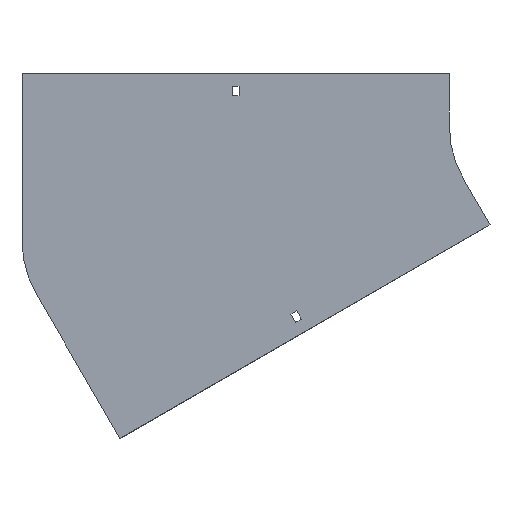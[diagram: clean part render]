
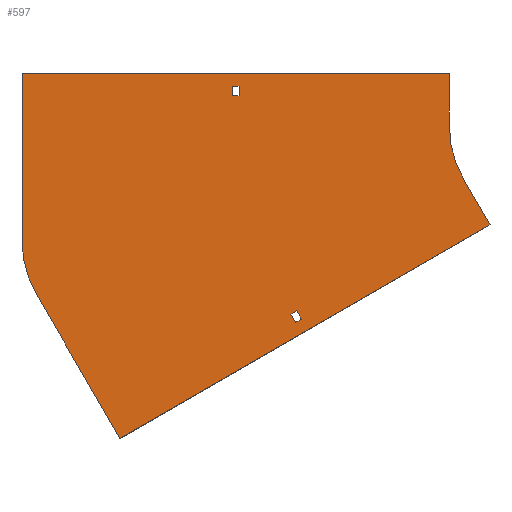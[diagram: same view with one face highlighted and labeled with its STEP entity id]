
A CAD part, front view. The second image highlights one B-rep face of the part: STEP entity #597.
In plain terms, the highlighted planar face has unit normal (0, -1, 0).
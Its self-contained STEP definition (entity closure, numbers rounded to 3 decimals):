
#6 = ORIENTED_EDGE ( 'NONE', *, *, #985, .T. ) ;
#12 = VERTEX_POINT ( 'NONE', #540 ) ;
#22 = CARTESIAN_POINT ( 'NONE',  ( -61.603, 0., -93.301 ) ) ;
#27 = AXIS2_PLACEMENT_3D ( 'NONE', #1141, #809, #1247 ) ;
#58 = FACE_BOUND ( 'NONE', #730, .T. ) ;
#99 = CARTESIAN_POINT ( 'NONE',  ( -504., 0., -108.251 ) ) ;
#107 = LINE ( 'NONE', #844, #542 ) ;
#111 = EDGE_CURVE ( 'NONE', #12, #1158, #1310, .T. ) ;
#122 = CARTESIAN_POINT ( 'NONE',  ( -504., 0., 50. ) ) ;
#158 = CARTESIAN_POINT ( 'NONE',  ( -404., 0., -108.251 ) ) ;
#160 = VECTOR ( 'NONE', #315, 1000. ) ;
#161 = VERTEX_POINT ( 'NONE', #753 ) ;
#193 = ORIENTED_EDGE ( 'NONE', *, *, #1044, .T. ) ;
#197 = DIRECTION ( 'NONE',  ( -0.5, 0., 0.866 ) ) ;
#209 = DIRECTION ( 'NONE',  ( -0.5, 0., 0.866 ) ) ;
#214 = EDGE_CURVE ( 'NONE', #1066, #12, #1196, .T. ) ;
#218 = VECTOR ( 'NONE', #1301, 1000. ) ;
#224 = LINE ( 'NONE', #1083, #218 ) ;
#231 = CARTESIAN_POINT ( 'NONE',  ( -504., 0., -108.251 ) ) ;
#293 = LINE ( 'NONE', #913, #1315 ) ;
#296 = ORIENTED_EDGE ( 'NONE', *, *, #970, .F. ) ;
#297 = EDGE_CURVE ( 'NONE', #847, #1184, #1370, .T. ) ;
#308 = EDGE_CURVE ( 'NONE', #1228, #805, #1163, .T. ) ;
#314 = LINE ( 'NONE', #430, #1227 ) ;
#315 = DIRECTION ( 'NONE',  ( 0.5, 0., -0.866 ) ) ;
#370 = ORIENTED_EDGE ( 'NONE', *, *, #1391, .T. ) ;
#381 = VERTEX_POINT ( 'NONE', #835 ) ;
#386 = ORIENTED_EDGE ( 'NONE', *, *, #308, .T. ) ;
#387 = PLANE ( 'NONE',  #27 ) ;
#413 = DIRECTION ( 'NONE',  ( -0.866, 0., -0.5 ) ) ;
#419 = CARTESIAN_POINT ( 'NONE',  ( -305.25, 0., 29. ) ) ;
#425 = DIRECTION ( 'NONE',  ( 1., 0., 0. ) ) ;
#428 = CARTESIAN_POINT ( 'NONE',  ( -239.725, 0., -182.284 ) ) ;
#430 = CARTESIAN_POINT ( 'NONE',  ( -298.75, 0., 29. ) ) ;
#441 = DIRECTION ( 'NONE',  ( 0., 0., -1. ) ) ;
#443 = ORIENTED_EDGE ( 'NONE', *, *, #825, .F. ) ;
#446 = DIRECTION ( 'NONE',  ( -0.866, 0., -0.5 ) ) ;
#448 = DIRECTION ( 'NONE',  ( 0., 0., -1. ) ) ;
#452 = CARTESIAN_POINT ( 'NONE',  ( -100., 0., 50. ) ) ;
#476 = VECTOR ( 'NONE', #508, 1000. ) ;
#479 = VECTOR ( 'NONE', #1382, 1000. ) ;
#498 = VERTEX_POINT ( 'NONE', #534 ) ;
#499 = CIRCLE ( 'NONE', #795, 100. ) ;
#508 = DIRECTION ( 'NONE',  ( -1., 0., 0. ) ) ;
#532 = ORIENTED_EDGE ( 'NONE', *, *, #928, .F. ) ;
#534 = CARTESIAN_POINT ( 'NONE',  ( -490.603, 0., -158.251 ) ) ;
#540 = CARTESIAN_POINT ( 'NONE',  ( -504., 0., 50. ) ) ;
#542 = VECTOR ( 'NONE', #543, 1000. ) ;
#543 = DIRECTION ( 'NONE',  ( 0., 0., 1. ) ) ;
#577 = CARTESIAN_POINT ( 'NONE',  ( -305.25, 0., 38. ) ) ;
#590 = CARTESIAN_POINT ( 'NONE',  ( -298.75, 0., 38. ) ) ;
#592 = ORIENTED_EDGE ( 'NONE', *, *, #818, .F. ) ;
#597 = ADVANCED_FACE ( 'NONE', ( #58, #909, #1355 ), #387, .T. ) ;
#598 = VERTEX_POINT ( 'NONE', #1028 ) ;
#607 = VERTEX_POINT ( 'NONE', #428 ) ;
#625 = CARTESIAN_POINT ( 'NONE',  ( -86.603, 0., -50. ) ) ;
#639 = EDGE_CURVE ( 'NONE', #1147, #498, #1289, .T. ) ;
#646 = DIRECTION ( 'NONE',  ( 1., 0., 0. ) ) ;
#649 = CARTESIAN_POINT ( 'NONE',  ( -244.225, 0., -174.49 ) ) ;
#672 = EDGE_LOOP ( 'NONE', ( #443, #296, #712, #1006 ) ) ;
#698 = AXIS2_PLACEMENT_3D ( 'NONE', #158, #1092, #1116 ) ;
#712 = ORIENTED_EDGE ( 'NONE', *, *, #1234, .F. ) ;
#720 = DIRECTION ( 'NONE',  ( 0., 0., -1. ) ) ;
#730 = EDGE_LOOP ( 'NONE', ( #6, #386, #193, #370 ) ) ;
#753 = CARTESIAN_POINT ( 'NONE',  ( -249.854, 0., -177.74 ) ) ;
#758 = DIRECTION ( 'NONE',  ( 0., -1., 0. ) ) ;
#765 = EDGE_CURVE ( 'NONE', #381, #847, #499, .T. ) ;
#784 = CARTESIAN_POINT ( 'NONE',  ( -249.854, 0., -177.74 ) ) ;
#793 = VECTOR ( 'NONE', #197, 1000. ) ;
#795 = AXIS2_PLACEMENT_3D ( 'NONE', #1087, #758, #448 ) ;
#805 = VERTEX_POINT ( 'NONE', #590 ) ;
#806 = CARTESIAN_POINT ( 'NONE',  ( -86.603, 0., -50. ) ) ;
#809 = DIRECTION ( 'NONE',  ( 0., -1., 0. ) ) ;
#813 = VECTOR ( 'NONE', #646, 1000. ) ;
#818 = EDGE_CURVE ( 'NONE', #1158, #381, #293, .T. ) ;
#825 = EDGE_CURVE ( 'NONE', #598, #607, #827, .T. ) ;
#827 = LINE ( 'NONE', #1359, #479 ) ;
#835 = CARTESIAN_POINT ( 'NONE',  ( -100., 0., 0. ) ) ;
#841 = EDGE_CURVE ( 'NONE', #607, #1143, #1353, .T. ) ;
#844 = CARTESIAN_POINT ( 'NONE',  ( -305.25, 0., 29. ) ) ;
#847 = VERTEX_POINT ( 'NONE', #806 ) ;
#855 = VECTOR ( 'NONE', #413, 1000. ) ;
#909 = FACE_OUTER_BOUND ( 'NONE', #1102, .T. ) ;
#912 = LINE ( 'NONE', #1144, #476 ) ;
#913 = CARTESIAN_POINT ( 'NONE',  ( -100., 0., 50. ) ) ;
#928 = EDGE_CURVE ( 'NONE', #1184, #1147, #939, .T. ) ;
#933 = CARTESIAN_POINT ( 'NONE',  ( -305.25, 0., 38. ) ) ;
#939 = LINE ( 'NONE', #1128, #855 ) ;
#949 = CIRCLE ( 'NONE', #698, 100. ) ;
#956 = ORIENTED_EDGE ( 'NONE', *, *, #765, .F. ) ;
#968 = DIRECTION ( 'NONE',  ( 0., 0., 1. ) ) ;
#970 = EDGE_CURVE ( 'NONE', #161, #598, #224, .T. ) ;
#978 = CARTESIAN_POINT ( 'NONE',  ( -411.477, 0., -295.301 ) ) ;
#979 = LINE ( 'NONE', #784, #1295 ) ;
#985 = EDGE_CURVE ( 'NONE', #1361, #1228, #107, .T. ) ;
#1006 = ORIENTED_EDGE ( 'NONE', *, *, #841, .F. ) ;
#1017 = ORIENTED_EDGE ( 'NONE', *, *, #111, .F. ) ;
#1028 = CARTESIAN_POINT ( 'NONE',  ( -245.354, 0., -185.534 ) ) ;
#1044 = EDGE_CURVE ( 'NONE', #805, #1242, #314, .T. ) ;
#1045 = VECTOR ( 'NONE', #209, 1000. ) ;
#1066 = VERTEX_POINT ( 'NONE', #99 ) ;
#1083 = CARTESIAN_POINT ( 'NONE',  ( -249.854, 0., -177.74 ) ) ;
#1087 = CARTESIAN_POINT ( 'NONE',  ( 0., 0., 0. ) ) ;
#1092 = DIRECTION ( 'NONE',  ( 0., 1., 0. ) ) ;
#1102 = EDGE_LOOP ( 'NONE', ( #1017, #1117, #1205, #1308, #532, #1235, #956, #592 ) ) ;
#1116 = DIRECTION ( 'NONE',  ( 0., 0., 1. ) ) ;
#1117 = ORIENTED_EDGE ( 'NONE', *, *, #214, .F. ) ;
#1121 = VECTOR ( 'NONE', #425, 1000. ) ;
#1128 = CARTESIAN_POINT ( 'NONE',  ( -61.603, 0., -93.301 ) ) ;
#1141 = CARTESIAN_POINT ( 'NONE',  ( 0., 0., 0. ) ) ;
#1143 = VERTEX_POINT ( 'NONE', #649 ) ;
#1144 = CARTESIAN_POINT ( 'NONE',  ( -305.25, 0., 29. ) ) ;
#1147 = VERTEX_POINT ( 'NONE', #978 ) ;
#1154 = CARTESIAN_POINT ( 'NONE',  ( -244.225, 0., -174.49 ) ) ;
#1158 = VERTEX_POINT ( 'NONE', #452 ) ;
#1163 = LINE ( 'NONE', #933, #1121 ) ;
#1173 = CARTESIAN_POINT ( 'NONE',  ( -411.477, 0., -295.301 ) ) ;
#1184 = VERTEX_POINT ( 'NONE', #22 ) ;
#1190 = VECTOR ( 'NONE', #968, 1000. ) ;
#1196 = LINE ( 'NONE', #231, #1190 ) ;
#1200 = EDGE_CURVE ( 'NONE', #498, #1066, #949, .T. ) ;
#1205 = ORIENTED_EDGE ( 'NONE', *, *, #1200, .F. ) ;
#1227 = VECTOR ( 'NONE', #441, 1000. ) ;
#1228 = VERTEX_POINT ( 'NONE', #577 ) ;
#1234 = EDGE_CURVE ( 'NONE', #1143, #161, #979, .T. ) ;
#1235 = ORIENTED_EDGE ( 'NONE', *, *, #297, .F. ) ;
#1242 = VERTEX_POINT ( 'NONE', #1348 ) ;
#1247 = DIRECTION ( 'NONE',  ( 0., 0., -1. ) ) ;
#1289 = LINE ( 'NONE', #1173, #1045 ) ;
#1295 = VECTOR ( 'NONE', #446, 1000. ) ;
#1301 = DIRECTION ( 'NONE',  ( 0.5, 0., -0.866 ) ) ;
#1308 = ORIENTED_EDGE ( 'NONE', *, *, #639, .F. ) ;
#1310 = LINE ( 'NONE', #122, #813 ) ;
#1315 = VECTOR ( 'NONE', #720, 1000. ) ;
#1348 = CARTESIAN_POINT ( 'NONE',  ( -298.75, 0., 29. ) ) ;
#1353 = LINE ( 'NONE', #1154, #793 ) ;
#1355 = FACE_BOUND ( 'NONE', #672, .T. ) ;
#1359 = CARTESIAN_POINT ( 'NONE',  ( -245.354, 0., -185.534 ) ) ;
#1361 = VERTEX_POINT ( 'NONE', #419 ) ;
#1370 = LINE ( 'NONE', #625, #160 ) ;
#1382 = DIRECTION ( 'NONE',  ( 0.866, 0., 0.5 ) ) ;
#1391 = EDGE_CURVE ( 'NONE', #1242, #1361, #912, .T. ) ;
